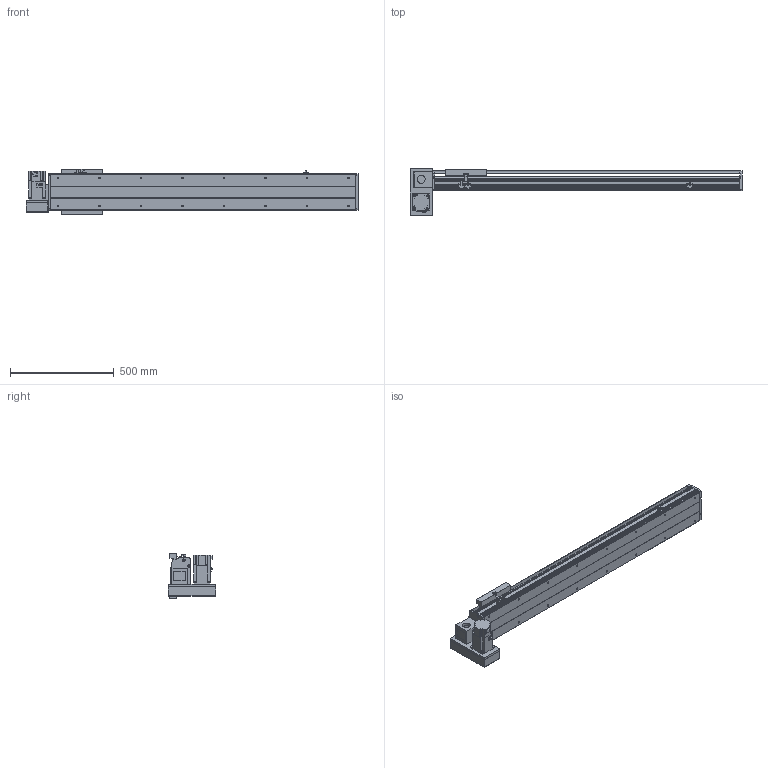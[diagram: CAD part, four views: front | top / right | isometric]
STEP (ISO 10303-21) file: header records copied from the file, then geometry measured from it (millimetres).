
FILE_DESCRIPTION(/* description */ ('STEP AP214'),/* implementation_level */ '2;1');
FILE_NAME(/* name */ 'PBS200-P40-S1100-LD-T75-C1-N(0)',/* time_stamp */ '2022-06-11T08:44:26+02:00',/* author */ ('License CC BY-ND 4.0'),/* organization */ ('CADENAS'),/* preprocessor_version */ 'ST-DEVELOPER v18.102',/* originating_system */ 'PARTsolutions',/* authorisation */ ' ');
FILE_SCHEMA (('AUTOMOTIVE_DESIGN {1 0 10303 214 3 1 1}'));
Length unit declared in the file: millimetre
Products named in the file (7): PBS200-P40-S1100-LD-T75-C1-N(0); PBS200_sensor; PBS200_plant; PBS200_sliser; T75-p1; PBS200T-LD_motors; PBS200-S1100()_body
Assembly tree (8 placements, depth 2):
  PBS200-P40-S1100-LD-T75-C1-N(0)
    PBS200_sensor  x3
    PBS200_plant
    PBS200_sliser
    T75-p1
    PBS200T-LD_motors
    PBS200-S1100()_body
Bounding box: 1600 x 230 x 221 mm (x, y, z)
Volume: 11862108.7 mm3; surface area: 1917780.5 mm2
Topology: 8 solids, 8 shells, 920 faces, 2374 edges, 1548 vertices
Faces by surface type: plane 574, cylinder 298, cone 48
Full cylindrical faces by diameter (mm): 2.459 x6, 3.242 x4, 4.5 x6, 4.917 x4, 5 x6, 6 x7, 6.6 x8, 6.647 x20, 8 x6, 10 x4, 12 x8, 38 x2, 40 x1, 70 x1
Entity records: 24581 total; most frequent: DIRECTION 4327, CARTESIAN_POINT 4192, ORIENTED_EDGE 3982, EDGE_CURVE 1991, AXIS2_PLACEMENT_3D 1507, VERTEX_POINT 1372, LINE 1313, VECTOR 1313
